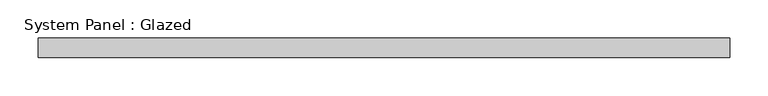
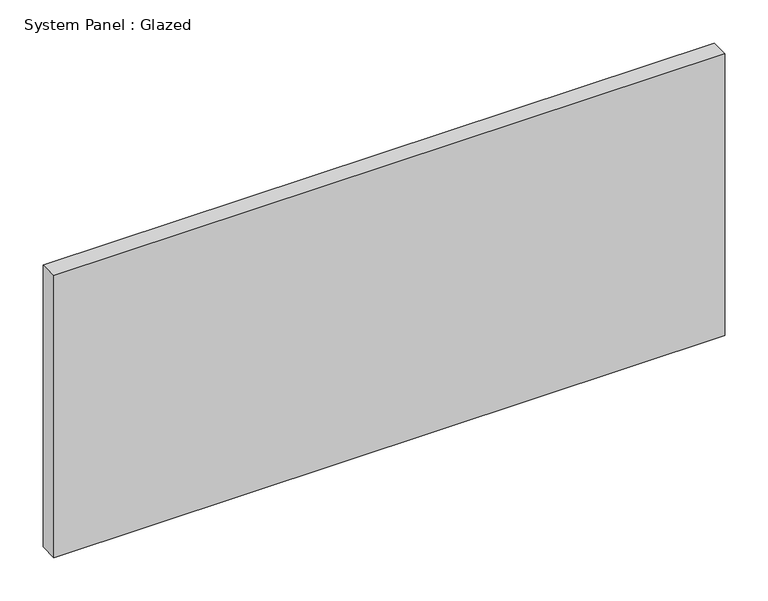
"""IFC4 building model written with IfcOpenShell, lengths in millimetres: plate geometry, System Panel : Glazed."""

from ifc_helpers import new_model, si_unit, origin, origin_with_axes, place, context, project, spatial, polyline, outline, extrude, source, transform, mapped, element, save


def system_panel_glazed_e6f66e58(model_context):
    return source(origin(), model_context, "Body", "SweptSolid", [
        extrude(outline(polyline([(450.0, -49.5), (-450.0, -49.5), (-450.0, -24.5), (450.0, -24.5), (450.0, -49.5)])), origin_with_axes(), (0.0, 0.0, 1.0), 400.0),
    ])


if __name__ == "__main__":
    model = new_model("IFC4")
    model_context = context("Model", 3, world=origin())
    ifc_project = project(units=[si_unit("LENGTHUNIT", "METRE", prefix="MILLI")], contexts=[model_context])
    site = spatial("IfcSite", under=ifc_project)
    building = spatial("IfcBuilding", under=site)
    placement = place(None, origin())
    system_panel_glazed_shape = system_panel_glazed_e6f66e58(model_context)
    element("IfcPlate", 1, ObjectType="System Panel : Glazed", at=placement, inside=building, context=model_context, shape_type="MappedRepresentation", body=[
        mapped(system_panel_glazed_shape, transform((0.0, 0.0, 0.0), x_axis=(1.0, 0.0, 0.0), y_axis=(0.0, 1.0, 0.0), z_axis=(0.0, 0.0, 1.0))),
    ])
    save(model, "model.ifc")
